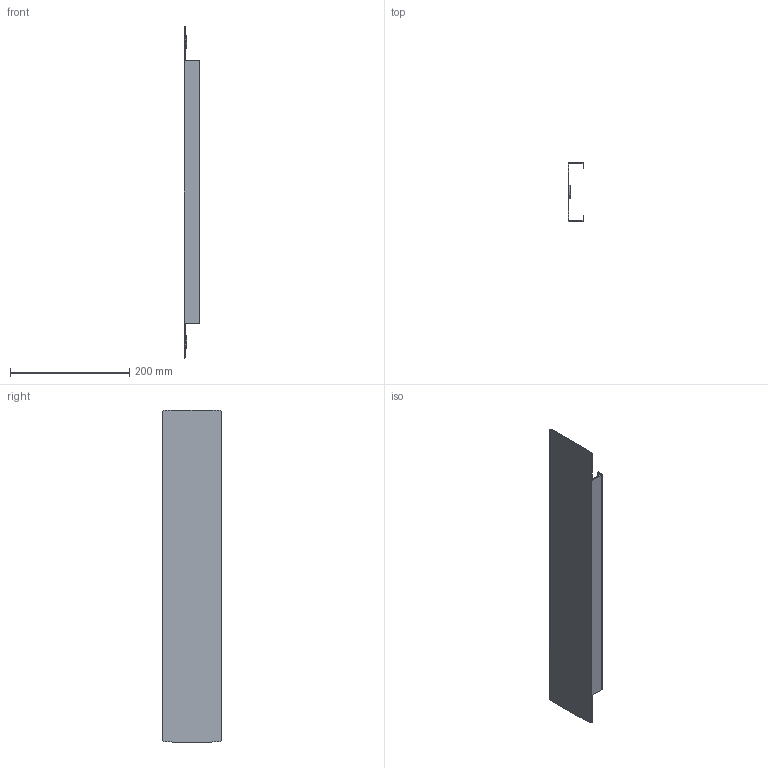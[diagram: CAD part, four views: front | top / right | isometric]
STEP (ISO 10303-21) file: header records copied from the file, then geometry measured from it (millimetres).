
FILE_DESCRIPTION( ( 'STEP AP214' ), '1' );
FILE_NAME( 'p:/temp/worker_248/temp/exporttempdir_4612_128_n0k4N/format_0/PSS1060(0).stp', '2021-03-16T11:35:06', ( 'License CC BY-ND 4.0' ), ( 'CADENAS' ), ' ', 'PARTsolutions', ' ' );
FILE_SCHEMA( ( 'AUTOMOTIVE_DESIGN { 1 0 10303 214 1 1 1 1 }' ) );
Length unit declared in the file: millimetre
Products named in the file (1): _PSS1060(0)
Bounding box: 26.5 x 98 x 556 mm (x, y, z)
Volume: 128588.3 mm3; surface area: 170978.7 mm2
Topology: 1 solids, 1 shells, 34 faces, 92 edges, 62 vertices
Faces by surface type: plane 24, cylinder 10
Full cylindrical faces by diameter (mm): 22 x2
Entity records: 1336 total; most frequent: CARTESIAN_POINT 183, DIRECTION 182, ORIENTED_EDGE 176, EDGE_CURVE 88, LINE 64, VECTOR 64, VERTEX_POINT 60, AXIS2_PLACEMENT_3D 59
